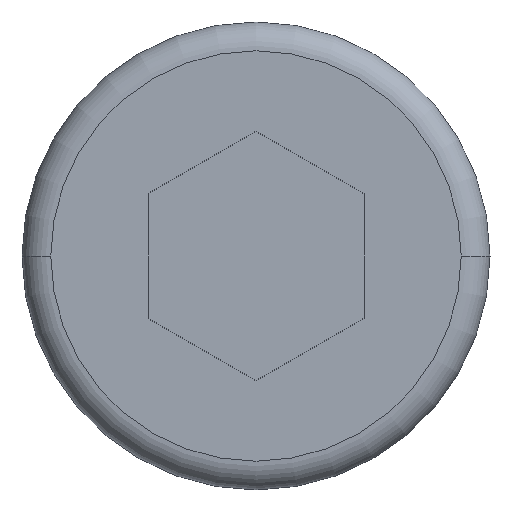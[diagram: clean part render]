
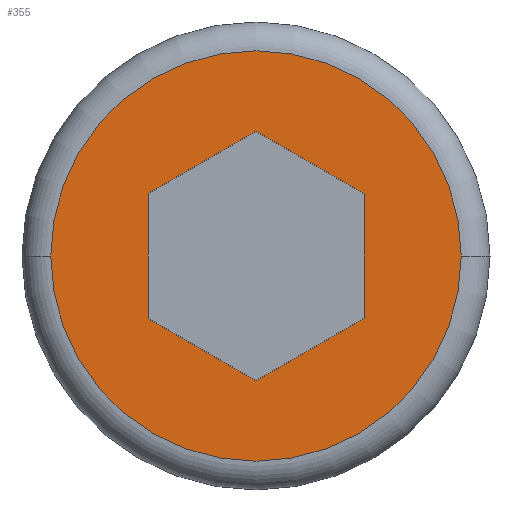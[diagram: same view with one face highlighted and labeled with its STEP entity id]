
A CAD part, left-side view. The second image highlights one B-rep face of the part: STEP entity #355.
In plain terms, the highlighted planar face has unit normal (-1, 0, 0).
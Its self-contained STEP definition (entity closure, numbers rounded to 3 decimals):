
#48=CARTESIAN_POINT('',(0.,0.,0.));
#49=DIRECTION('',(1.,0.,0.));
#50=DIRECTION('',(0.,1.,0.));
#51=AXIS2_PLACEMENT_3D('',#48,#49,#50);
#58=DIRECTION('',(0.,0.866,0.5));
#59=VECTOR('',#58,3.464);
#60=CARTESIAN_POINT('',(0.,-3.,1.732));
#61=LINE('',#60,#59);
#62=DIRECTION('',(0.,0.866,-0.5));
#63=VECTOR('',#62,3.464);
#64=CARTESIAN_POINT('',(0.,0.,3.464));
#65=LINE('',#64,#63);
#66=DIRECTION('',(0.,0.,-1.));
#67=VECTOR('',#66,3.464);
#68=CARTESIAN_POINT('',(0.,3.,1.732));
#69=LINE('',#68,#67);
#70=DIRECTION('',(0.,-0.866,-0.5));
#71=VECTOR('',#70,3.464);
#72=CARTESIAN_POINT('',(0.,3.,-1.732));
#73=LINE('',#72,#71);
#74=DIRECTION('',(0.,-0.866,0.5));
#75=VECTOR('',#74,3.464);
#76=CARTESIAN_POINT('',(0.,0.,-3.464));
#77=LINE('',#76,#75);
#78=DIRECTION('',(0.,0.,1.));
#79=VECTOR('',#78,3.464);
#80=CARTESIAN_POINT('',(0.,-3.,-1.732));
#81=LINE('',#80,#79);
#82=CARTESIAN_POINT('',(0.,0.,0.));
#83=DIRECTION('',(-1.,0.,0.));
#84=DIRECTION('',(0.,1.,0.));
#85=AXIS2_PLACEMENT_3D('',#82,#83,#84);
#184=CARTESIAN_POINT('',(0.,5.7,0.));
#185=CARTESIAN_POINT('',(0.,-5.7,0.));
#186=VERTEX_POINT('',#184);
#187=VERTEX_POINT('',#185);
#204=CARTESIAN_POINT('',(0.,-3.,1.732));
#205=CARTESIAN_POINT('',(0.,0.,3.464));
#206=VERTEX_POINT('',#204);
#207=VERTEX_POINT('',#205);
#208=CARTESIAN_POINT('',(0.,3.,1.732));
#209=VERTEX_POINT('',#208);
#210=CARTESIAN_POINT('',(0.,3.,-1.732));
#211=VERTEX_POINT('',#210);
#212=CARTESIAN_POINT('',(0.,0.,-3.464));
#213=VERTEX_POINT('',#212);
#214=CARTESIAN_POINT('',(0.,-3.,-1.732));
#215=VERTEX_POINT('',#214);
#331=CARTESIAN_POINT('',(0.,0.,0.));
#332=DIRECTION('',(-1.,0.,0.));
#333=DIRECTION('',(0.,1.,0.));
#334=AXIS2_PLACEMENT_3D('',#331,#332,#333);
#335=PLANE('',#334);
#336=ORIENTED_EDGE('',*,*,#321,.T.);
#338=ORIENTED_EDGE('',*,*,#337,.F.);
#339=EDGE_LOOP('',(#336,#338));
#340=FACE_OUTER_BOUND('',#339,.F.);
#342=ORIENTED_EDGE('',*,*,#341,.T.);
#344=ORIENTED_EDGE('',*,*,#343,.T.);
#346=ORIENTED_EDGE('',*,*,#345,.T.);
#348=ORIENTED_EDGE('',*,*,#347,.T.);
#350=ORIENTED_EDGE('',*,*,#349,.T.);
#352=ORIENTED_EDGE('',*,*,#351,.T.);
#353=EDGE_LOOP('',(#342,#344,#346,#348,#350,#352));
#354=FACE_BOUND('',#353,.F.);
#355=ADVANCED_FACE('',(#340,#354),#335,.T.);
#52=CIRCLE('',#51,5.7);
#86=CIRCLE('',#85,5.7);
#321=EDGE_CURVE('',#186,#187,#52,.T.);
#337=EDGE_CURVE('',#186,#187,#86,.T.);
#341=EDGE_CURVE('',#206,#207,#61,.T.);
#343=EDGE_CURVE('',#207,#209,#65,.T.);
#345=EDGE_CURVE('',#209,#211,#69,.T.);
#347=EDGE_CURVE('',#211,#213,#73,.T.);
#349=EDGE_CURVE('',#213,#215,#77,.T.);
#351=EDGE_CURVE('',#215,#206,#81,.T.);
